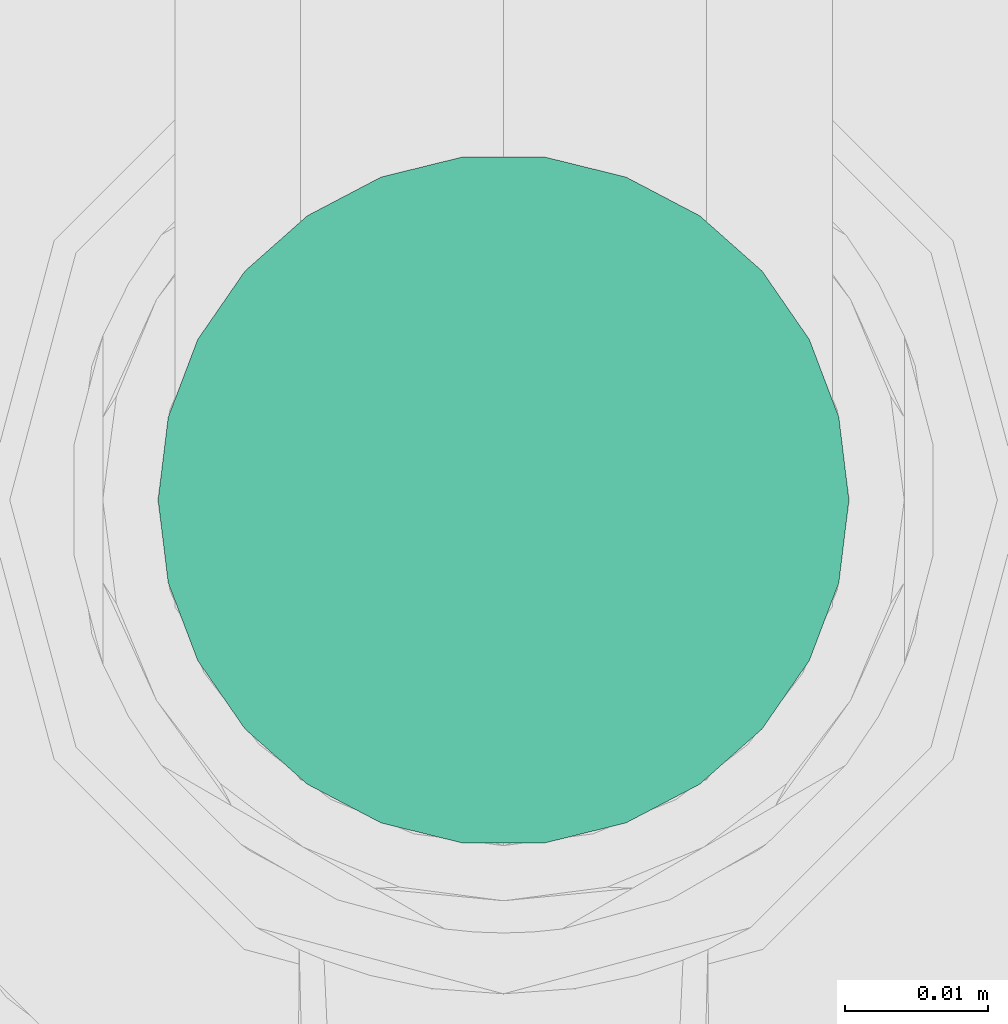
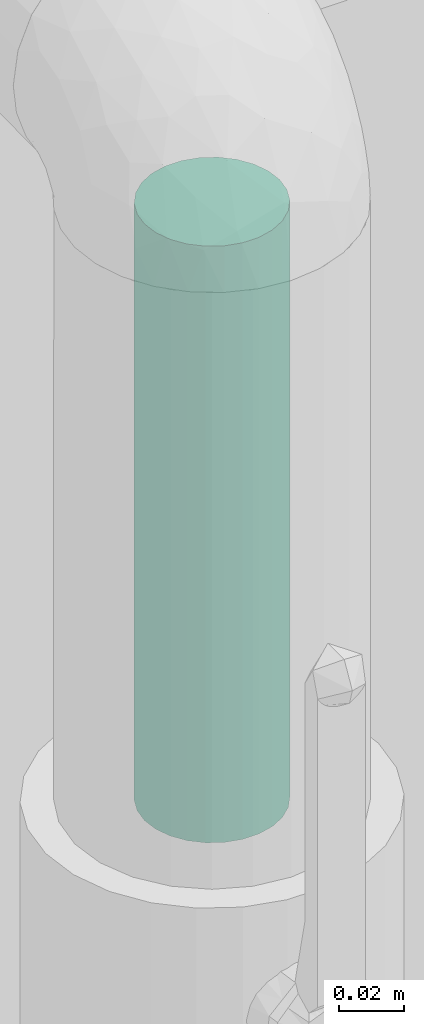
# One storey, part 82 of 94: 1 flow segment.
"""IFC2X3 building model written with IfcOpenShell, lengths in millimetres."""

import ifcopenshell
import ifcopenshell.guid

model = None  # the IFC model being written
_history = None  # IfcOwnerHistory: only IFC2X3 demands one
_inside = {}  # id of a spatial element -> (the spatial element, [elements in it])
_under = {}  # id of a project, library or spatial element -> (it, [spatial elements below it])
_declared = {}  # id of a project -> (the project, [libraries it declares])
_typed = {}  # id of a type object -> (the type object, [elements of that type])
_made_of = {}  # id of a material, layer set ... -> (it, [elements and type objects made of it])


def new_model(schema):
    """Start an empty IFC model of exactly this schema.

    Asked for "IFC4X3", IfcOpenShell would pick the latest addendum, in which some entities
    have other attributes; the version numbers below select the first issue.
    IFC2X3 requires an IfcOwnerHistory on every rooted entity: one is made here for all.
    """
    global model, _history
    if schema == "IFC4X3":
        model = ifcopenshell.file(schema_version=(4, 3, 0, 0))
    else:
        model = ifcopenshell.file(schema=schema)
    _inside.clear()
    _under.clear()
    _declared.clear()
    _typed.clear()
    _made_of.clear()
    _history = None
    if model.schema == "IFC2X3":
        org = make("IfcOrganization", Name="unknown")
        user = make(
            "IfcPersonAndOrganization",
            ThePerson=make("IfcPerson", FamilyName="unknown"),
            TheOrganization=org,
        )
        app = make(
            "IfcApplication",
            ApplicationDeveloper=org,
            Version="unknown",
            ApplicationFullName="unknown",
            ApplicationIdentifier="unknown",
        )
        _history = make(
            "IfcOwnerHistory",
            OwningUser=user,
            OwningApplication=app,
            ChangeAction="ADDED",
            CreationDate=0,
        )
    return model


def make(cls, **values):
    """One entity of the class cls with the attributes given. An attribute that is None is left unset."""
    return model.create_entity(
        cls, **{name: value for name, value in values.items() if value is not None}
    )


def entity(cls, *values):
    """Any entity or typed value of the class cls, its attributes in the order of the schema. None: left unset."""
    e = model.create_entity(cls)
    for i, value in enumerate(values):
        if value is not None:
            e[i] = value
    return e


def rooted(cls, **values):
    """An entity with a GlobalId (a new one), such as an element, a storey or a relation."""
    return make(cls, GlobalId=ifcopenshell.guid.new(), OwnerHistory=_history, **values)


def si_unit(unit_type, name, prefix=None):
    """IfcSIUnit, for example si_unit("LENGTHUNIT", "METRE", prefix="MILLI")."""
    return make("IfcSIUnit", UnitType=unit_type, Prefix=prefix, Name=name)


def converted_unit(unit_type, name, factor, base, dimensions=None, offset=None):
    """IfcConversionBasedUnit, such as the inch: factor (a typed value) times the base unit."""
    return make(
        "IfcConversionBasedUnit"
        if offset is None
        else "IfcConversionBasedUnitWithOffset",
        ConversionOffset=offset,
        Dimensions=None
        if dimensions is None
        else entity("IfcDimensionalExponents", *dimensions),
        UnitType=unit_type,
        Name=name,
        ConversionFactor=make(
            "IfcMeasureWithUnit", ValueComponent=factor, UnitComponent=base
        ),
    )


def derived_unit(unit_type, elements):
    """IfcDerivedUnit: a product of units, each with its exponent."""
    return make(
        "IfcDerivedUnit",
        Elements=[
            make("IfcDerivedUnitElement", Unit=unit, Exponent=power)
            for unit, power in elements
        ],
        UnitType=unit_type,
    )


def assignment(units):
    """IfcUnitAssignment: the units of a project."""
    return None if units is None else make("IfcUnitAssignment", Units=units)


def point(xyz):
    """IfcCartesianPoint."""
    return None if xyz is None else make("IfcCartesianPoint", Coordinates=xyz)


def direction(xyz):
    """IfcDirection."""
    return None if xyz is None else make("IfcDirection", DirectionRatios=xyz)


def frame(location, z_axis=None, x_axis=None):
    """IfcAxis2Placement3D, a coordinate frame: its origin and axes. An axis left out is left unset."""
    return make(
        "IfcAxis2Placement3D",
        Location=point(location),
        Axis=direction(z_axis),
        RefDirection=direction(x_axis),
    )


def frame_2d(location, x_axis=None):
    """IfcAxis2Placement2D, a coordinate frame in the plane: its origin and x axis."""
    return make(
        "IfcAxis2Placement2D", Location=point(location), RefDirection=direction(x_axis)
    )


def origin():
    """The frame at (0, 0, 0) with its axes left unset."""
    return frame((0.0, 0.0, 0.0))


def origin_2d_with_axis():
    """The frame at (0, 0) in the plane with the x axis (1, 0) written out."""
    return frame_2d((0.0, 0.0), x_axis=(1.0, 0.0))


def place(relative_to, where):
    """IfcLocalPlacement: puts the frame where relative to a parent placement (None: the world)."""
    return make(
        "IfcLocalPlacement", PlacementRelTo=relative_to, RelativePlacement=where
    )


def context(
    kind, dimensions, precision=None, world=None, true_north=None, identifier=None
):
    """IfcGeometricRepresentationContext, for example the 3D "Model" context."""
    return make(
        "IfcGeometricRepresentationContext",
        ContextIdentifier=identifier,
        ContextType=kind,
        CoordinateSpaceDimension=dimensions,
        Precision=precision,
        WorldCoordinateSystem=world,
        TrueNorth=true_north,
    )


def subcontext(parent, identifier, kind, view, scale=None):
    """IfcGeometricRepresentationSubContext, for example "Body" below "Model"."""
    return make(
        "IfcGeometricRepresentationSubContext",
        ContextIdentifier=identifier,
        ContextType=kind,
        ParentContext=parent,
        TargetScale=scale,
        TargetView=view,
    )


def project(units=None, contexts=None):
    """IfcProject with its units and contexts."""
    return rooted(
        "IfcProject",
        Name="project",
        RepresentationContexts=contexts,
        UnitsInContext=assignment(units),
    )


def spatial(cls, under=None, at=None, **own):
    """A site, building, storey or space (cls), placed at a placement, below another one or the project."""
    s = rooted(cls, ObjectPlacement=at, **own)
    if under is not None:
        _under.setdefault(under.id(), (under, []))[1].append(s)
    return s


def profile(cls, at=None, kind="AREA", **sizes):
    """A parametric profile (cls). Its sizes go by their IFC names, for example OverallWidth=200.0."""
    return make(cls, ProfileType=kind, Position=at, **sizes)


def circle(**sizes):
    """IfcCircleProfileDef."""
    return profile("IfcCircleProfileDef", **sizes)


def extrude(swept, where, along, depth):
    """IfcExtrudedAreaSolid: the profile swept, set in the frame where, extruded along a direction by depth."""
    return make(
        "IfcExtrudedAreaSolid",
        SweptArea=swept,
        Position=where,
        ExtrudedDirection=direction(along),
        Depth=depth,
    )


def shape(context_of_items, identifier, shape_type, items):
    """IfcShapeRepresentation: the items that make up one representation, for example the "Body"."""
    return make(
        "IfcShapeRepresentation",
        ContextOfItems=context_of_items,
        RepresentationIdentifier=identifier,
        RepresentationType=shape_type,
        Items=items,
    )


def made_of(thing, what):
    """Note that an element or type object is made of a material, layer set ...; save() writes the relation."""
    if what is not None:
        _made_of.setdefault(what.id(), (what, []))[1].append(thing)
    return thing


def type_object(cls, material=None, **own):
    """A type object (cls), such as IfcWallType, which elements share."""
    return made_of(rooted(cls, **own), material)


def element(
    cls,
    number,
    at=None,
    inside=None,
    cuts=None,
    type_object=None,
    material=None,
    context=None,
    identifier="Body",
    shape_type=None,
    held_by="IfcProductDefinitionShape",
    body=None,
    shapes=None,
    **own,
):
    """One element of the class cls, such as IfcWall. Its Tag is "e" and its number.

    at: its placement. inside: the storey or other place that contains it. cuts: it is an
    opening in that element (IfcRelVoidsElement). A single representation is given by context,
    identifier, shape_type and body (its items); several are given by shapes. held_by: the class
    of the entity that holds the representations. save() writes the other relations.
    """
    e = rooted(cls, Tag="e%d" % number, ObjectPlacement=at, **own)
    if body is not None:
        shapes = [shape(context, identifier, shape_type, body)]
    if shapes is not None:
        e.Representation = make(held_by, Representations=shapes)
    if inside is not None:
        _inside.setdefault(inside.id(), (inside, []))[1].append(e)
    if cuts is not None:
        rooted(
            "IfcRelVoidsElement", RelatingBuildingElement=cuts, RelatedOpeningElement=e
        )
    if type_object is not None:
        _typed.setdefault(type_object.id(), (type_object, []))[1].append(e)
    return made_of(e, material)


def aggregate(whole, parts):
    """IfcRelAggregates: a whole, such as a stair, and the parts it consists of."""
    return rooted("IfcRelAggregates", RelatingObject=whole, RelatedObjects=parts)


def save(model, path):
    """Write the relations noted so far, then the file.

    IfcRelAggregates (storeys below a building ...), IfcRelContainedInSpatialStructure (elements
    in a storey), IfcRelDefinesByType, IfcRelAssociatesMaterial and IfcRelDeclares: one each for
    every whole, place, type object, material and project.
    """
    for whole, parts in _under.values():
        aggregate(whole, parts)
    for where, things in _inside.values():
        rooted(
            "IfcRelContainedInSpatialStructure",
            RelatedElements=things,
            RelatingStructure=where,
        )
    for kind, things in _typed.values():
        rooted("IfcRelDefinesByType", RelatedObjects=things, RelatingType=kind)
    for what, things in _made_of.values():
        rooted("IfcRelAssociatesMaterial", RelatedObjects=things, RelatingMaterial=what)
    for by, libraries in _declared.values():
        rooted("IfcRelDeclares", RelatingContext=by, RelatedDefinitions=libraries)
    model.write(path)


model = new_model("IFC2X3")

# Units and contexts
model_context = context("Model", 3, precision=0.01, world=origin(), true_north=direction((6.123031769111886e-17, 1.0)))
body_context = subcontext(model_context, "Body", "Model", "MODEL_VIEW")
ifc_project = project(units=[si_unit("LENGTHUNIT", "METRE", prefix="MILLI"), si_unit("AREAUNIT", "SQUARE_METRE"), si_unit("VOLUMEUNIT", "CUBIC_METRE"), converted_unit("PLANEANGLEUNIT", "DEGREE", entity("IfcRatioMeasure", 0.017453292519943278), si_unit("PLANEANGLEUNIT", "RADIAN"), dimensions=[0, 0, 0, 0, 0, 0, 0]), si_unit("MASSUNIT", "GRAM", prefix="KILO"), derived_unit("MASSDENSITYUNIT", [(si_unit("MASSUNIT", "GRAM", prefix="KILO"), 1), (si_unit("LENGTHUNIT", "METRE"), -3)]), derived_unit("IONCONCENTRATIONUNIT", [(si_unit("MASSUNIT", "GRAM", prefix="KILO"), 1), (si_unit("LENGTHUNIT", "METRE"), -3)]), derived_unit("MOMENTOFINERTIAUNIT", [(si_unit("LENGTHUNIT", "METRE"), 4)]), si_unit("TIMEUNIT", "SECOND"), si_unit("FREQUENCYUNIT", "HERTZ"), si_unit("THERMODYNAMICTEMPERATUREUNIT", "DEGREE_CELSIUS"), derived_unit("THERMALTRANSMITTANCEUNIT", [(si_unit("MASSUNIT", "GRAM", prefix="KILO"), 1), (si_unit("THERMODYNAMICTEMPERATUREUNIT", "KELVIN"), -1), (si_unit("TIMEUNIT", "SECOND"), -3)]), derived_unit("THERMALCONDUCTANCEUNIT", [(si_unit("MASSUNIT", "GRAM", prefix="KILO"), 1), (si_unit("THERMODYNAMICTEMPERATUREUNIT", "KELVIN"), -1), (si_unit("TIMEUNIT", "SECOND"), -3), (si_unit("LENGTHUNIT", "METRE"), 1)]), derived_unit("VOLUMETRICFLOWRATEUNIT", [(si_unit("LENGTHUNIT", "METRE"), 3), (si_unit("TIMEUNIT", "SECOND"), -1)]), derived_unit("MASSFLOWRATEUNIT", [(si_unit("MASSUNIT", "GRAM", prefix="KILO"), 1), (si_unit("TIMEUNIT", "SECOND"), -1)]), derived_unit("ROTATIONALFREQUENCYUNIT", [(si_unit("TIMEUNIT", "SECOND"), -1)]), si_unit("ELECTRICCURRENTUNIT", "AMPERE"), si_unit("ELECTRICVOLTAGEUNIT", "VOLT"), si_unit("POWERUNIT", "WATT"), si_unit("FORCEUNIT", "NEWTON", prefix="KILO"), si_unit("ILLUMINANCEUNIT", "LUX"), si_unit("LUMINOUSFLUXUNIT", "LUMEN"), si_unit("LUMINOUSINTENSITYUNIT", "CANDELA"), derived_unit("USERDEFINED", [(si_unit("MASSUNIT", "GRAM", prefix="KILO"), -1), (si_unit("LENGTHUNIT", "METRE"), -2), (si_unit("TIMEUNIT", "SECOND"), 3), (si_unit("LUMINOUSFLUXUNIT", "LUMEN"), 1)]), derived_unit("USERDEFINED", [(si_unit("MASSUNIT", "GRAM", prefix="KILO"), 1), (si_unit("TIMEUNIT", "SECOND"), -3), (si_unit("LENGTHUNIT", "METRE"), 3), (si_unit("ELECTRICCURRENTUNIT", "AMPERE"), -2)]), derived_unit("SOUNDPOWERUNIT", [(si_unit("MASSUNIT", "GRAM", prefix="KILO"), 1), (si_unit("TIMEUNIT", "SECOND"), -3), (si_unit("LENGTHUNIT", "METRE"), 2)]), derived_unit("SOUNDPRESSUREUNIT", [(si_unit("MASSUNIT", "GRAM", prefix="KILO"), 1), (si_unit("LENGTHUNIT", "METRE"), -1), (si_unit("TIMEUNIT", "SECOND"), -2)]), derived_unit("LINEARVELOCITYUNIT", [(si_unit("LENGTHUNIT", "METRE"), 1), (si_unit("TIMEUNIT", "SECOND"), -1)]), si_unit("PRESSUREUNIT", "PASCAL"), derived_unit("USERDEFINED", [(si_unit("MASSUNIT", "GRAM", prefix="KILO"), 1), (si_unit("LENGTHUNIT", "METRE"), -2), (si_unit("TIMEUNIT", "SECOND"), -2)]), derived_unit("LINEARFORCEUNIT", [(si_unit("MASSUNIT", "GRAM", prefix="KILO"), 1), (si_unit("TIMEUNIT", "SECOND"), -2)]), derived_unit("PLANARFORCEUNIT", [(si_unit("MASSUNIT", "GRAM", prefix="KILO"), 1), (si_unit("LENGTHUNIT", "METRE"), -1), (si_unit("TIMEUNIT", "SECOND"), -2)]), derived_unit("SPECIFICHEATCAPACITYUNIT", [(si_unit("THERMODYNAMICTEMPERATUREUNIT", "KELVIN"), -1), (si_unit("LENGTHUNIT", "METRE"), 2), (si_unit("TIMEUNIT", "SECOND"), -2)]), derived_unit("HEATINGVALUEUNIT", [(si_unit("LENGTHUNIT", "METRE"), 2), (si_unit("TIMEUNIT", "SECOND"), -2)]), derived_unit("VAPORPERMEABILITYUNIT", [(si_unit("LENGTHUNIT", "METRE"), -1), (si_unit("TIMEUNIT", "SECOND"), 1)]), derived_unit("DYNAMICVISCOSITYUNIT", [(si_unit("MASSUNIT", "GRAM", prefix="KILO"), 1), (si_unit("TIMEUNIT", "SECOND"), -1), (si_unit("LENGTHUNIT", "METRE"), -1)]), derived_unit("THERMALEXPANSIONCOEFFICIENTUNIT", [(si_unit("THERMODYNAMICTEMPERATUREUNIT", "KELVIN"), -1)]), derived_unit("MODULUSOFELASTICITYUNIT", [(si_unit("MASSUNIT", "GRAM", prefix="KILO"), 1), (si_unit("LENGTHUNIT", "METRE"), -1), (si_unit("TIMEUNIT", "SECOND"), -2)]), derived_unit("ISOTHERMALMOISTURECAPACITYUNIT", [(si_unit("LENGTHUNIT", "METRE"), 3), (si_unit("MASSUNIT", "GRAM", prefix="KILO"), -1)]), derived_unit("MOISTUREDIFFUSIVITYUNIT", [(si_unit("TIMEUNIT", "SECOND"), -1), (si_unit("LENGTHUNIT", "METRE"), 2)])], contexts=[model_context])

# Site, building, storey
site_placement = place(None, origin())
site = spatial("IfcSite", under=ifc_project, at=site_placement, Name="Default", CompositionType="ELEMENT")
building_placement = place(site_placement, origin())
building = spatial("IfcBuilding", under=site, at=building_placement, CompositionType="ELEMENT")
storey_placement = place(building_placement, origin())
storey = spatial("IfcBuildingStorey", under=building, at=storey_placement, Name="Niveau 0", CompositionType="ELEMENT", Elevation=0.0)

# Flow segment
pipe_segment_type = type_object("IfcPipeSegmentType", Name="Canalisation:Bride acier", PredefinedType="NOTDEFINED")
flow_segment_placement = place(storey_placement, origin())
element("IfcFlowSegment", 1, at=flow_segment_placement, inside=storey, type_object=pipe_segment_type, Name="Canalisation:Bride acier", ObjectType="Canalisation:Bride acier", context=body_context, shape_type="SweptSolid", body=[
    extrude(circle(Radius=24.13, at=origin_2d_with_axis()), frame((-8572.145865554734, 9922.470546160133, 2286.465221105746)), (0.0, 0.0, 1.0), 225.53477889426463),
])

save(model, "model.ifc")
